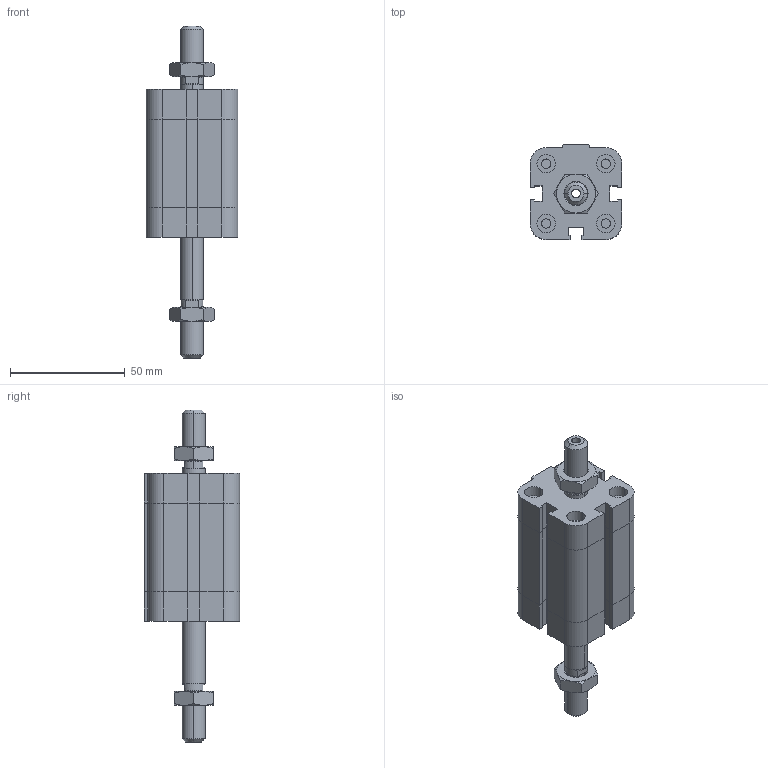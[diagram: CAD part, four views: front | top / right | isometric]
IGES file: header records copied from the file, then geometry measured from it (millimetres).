
Global section: file name: No Iges File Name specified; native system: Autodesk Inventor 2009; preprocessor: AutoDesk Inventor Iges Exporter R2009; author: maffial1; date: 20090420.142654; units: millimetre
Bounding box: 40 x 41.5 x 144.5 mm (x, y, z)
Volume: 98165 mm3; surface area: 27952.7 mm2
Topology: 4 solids, 4 shells, 262 faces, 580 edges, 346 vertices
Faces by surface type: plane 129, bspline 53, cone 38, cylinder 22, revolution 20
